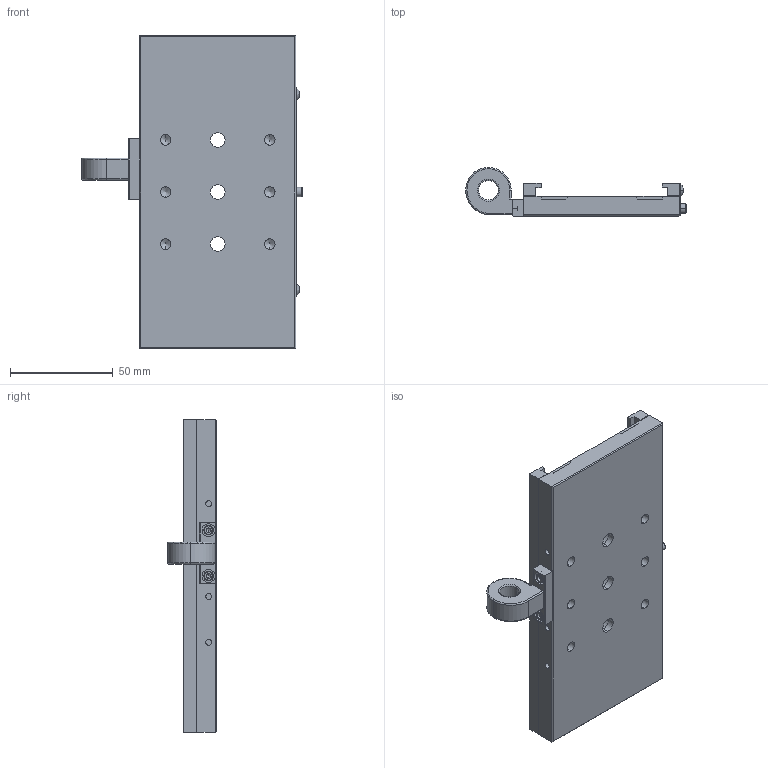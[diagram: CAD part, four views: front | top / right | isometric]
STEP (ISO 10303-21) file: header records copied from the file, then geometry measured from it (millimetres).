
FILE_DESCRIPTION (( 'STEP AP214' ), '1' );
FILE_NAME ('Newport-443 fix.STEP', '2022-12-14T09:34:40', ( '' ), ( '' ), 'SwSTEP 2.0', 'SolidWorks 2018', '' );
FILE_SCHEMA (( 'AUTOMOTIVE_DESIGN' ));
Length unit declared in the file: millimetre
Products named in the file (1): Newport-443 fix
Bounding box: 107.54 x 23.8 x 152.4 mm (x, y, z)
Volume: 126472.2 mm3; surface area: 49667.1 mm2
Topology: 5 solids, 15 shells, 301 faces, 693 edges, 421 vertices
Faces by surface type: plane 157, cylinder 82, cone 36, torus 22, bspline 4
Entity records: 8497 total; most frequent: DIRECTION 1533, CARTESIAN_POINT 1502, ORIENTED_EDGE 1342, EDGE_CURVE 671, AXIS2_PLACEMENT_3D 564, VERTEX_POINT 421, LINE 405, VECTOR 405
